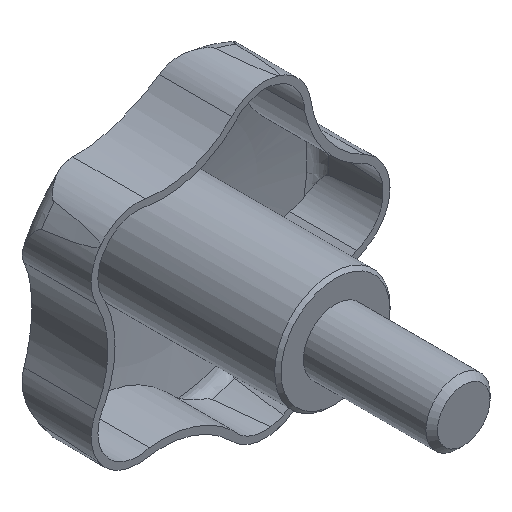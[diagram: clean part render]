
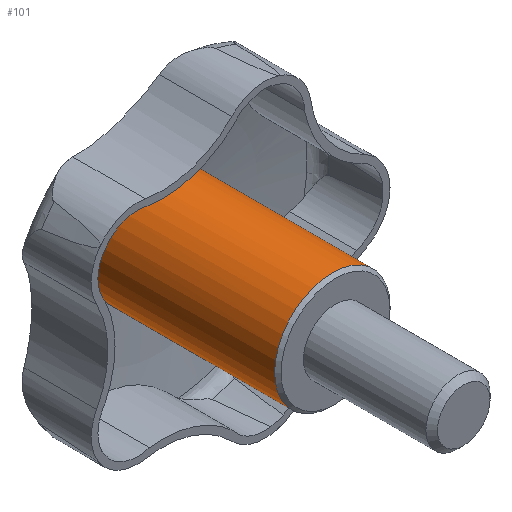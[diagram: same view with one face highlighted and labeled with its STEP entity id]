
A CAD part, isometric view. The second image highlights one B-rep face of the part: STEP entity #101.
In plain terms, the highlighted cylindrical face has radius 9 mm (diameter 18 mm), a full revolution.
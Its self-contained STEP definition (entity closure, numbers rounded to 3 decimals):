
#101 = ADVANCED_FACE( '', ( #189, #190 ), #191, .T. );
#189 = FACE_OUTER_BOUND( '', #315, .T. );
#190 = FACE_OUTER_BOUND( '', #316, .T. );
#191 = CYLINDRICAL_SURFACE( '', #317, 9. );
#315 = EDGE_LOOP( '', ( #608 ) );
#316 = EDGE_LOOP( '', ( #609 ) );
#317 = AXIS2_PLACEMENT_3D( '', #610, #611, #612 );
#608 = ORIENTED_EDGE( '', *, *, #973, .F. );
#609 = ORIENTED_EDGE( '', *, *, #917, .T. );
#610 = CARTESIAN_POINT( '', ( 0., -20., 0. ) );
#611 = DIRECTION( '', ( 0., 1., 0. ) );
#612 = DIRECTION( '', ( 0., 0., -1. ) );
#917 = EDGE_CURVE( '', #1115, #1115, #1116, .T. );
#973 = EDGE_CURVE( '', #1205, #1205, #1206, .T. );
#1115 = VERTEX_POINT( '', #1681 );
#1116 = CIRCLE( '', #1682, 9. );
#1205 = VERTEX_POINT( '', #2117 );
#1206 = CIRCLE( '', #2118, 9. );
#1681 = CARTESIAN_POINT( '', ( 0., 28.534, -9. ) );
#1682 = AXIS2_PLACEMENT_3D( '', #2339, #2340, #2341 );
#2117 = CARTESIAN_POINT( '', ( 0., 0.5, -9. ) );
#2118 = AXIS2_PLACEMENT_3D( '', #2393, #2394, #2395 );
#2339 = CARTESIAN_POINT( '', ( 0., 28.534, 0. ) );
#2340 = DIRECTION( '', ( 0., -1., 0. ) );
#2341 = DIRECTION( '', ( 0., 0., -1. ) );
#2393 = CARTESIAN_POINT( '', ( 0., 0.5, 0. ) );
#2394 = DIRECTION( '', ( 0., -1., 0. ) );
#2395 = DIRECTION( '', ( 0., 0., -1. ) );
